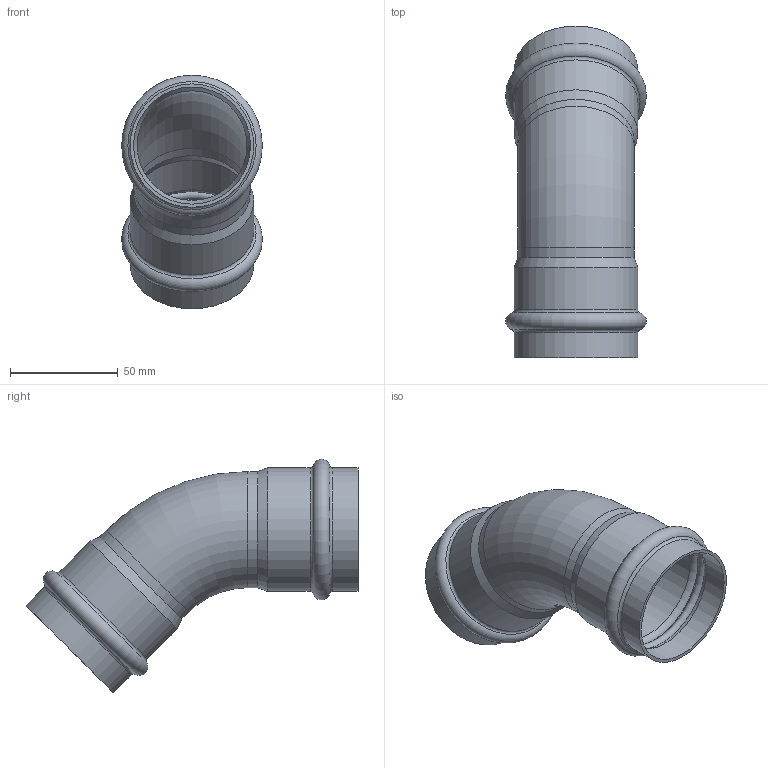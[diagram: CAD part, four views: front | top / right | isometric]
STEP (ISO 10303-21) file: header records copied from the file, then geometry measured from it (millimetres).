
FILE_DESCRIPTION(('STEP AP203'), '1');
FILE_NAME('VTi.959.I.005454', '', ('UNSPECIFIED'), ('UNSPECIFIED'), 'C3D Converter', 'C3D Toolkit', '');
FILE_SCHEMA(('CONFIG_CONTROL_DESIGN'));
Length unit declared in the file: millimetre
Products named in the file (1): ВР.302661.023.000 СБ
Bounding box: 65.38 x 154.3 x 108.49 mm (x, y, z)
Volume: 46417.8 mm3; surface area: 58069.8 mm2
Topology: 1 solids, 1 shells, 34 faces, 74 edges, 42 vertices
Faces by surface type: torus 16, cylinder 12, cone 4, plane 2
Full cylindrical faces by diameter (mm): 51 x2, 54 x2, 54.4 x4, 57.4 x4
Entity records: 808 total; most frequent: DIRECTION 154, CARTESIAN_POINT 119, ORIENTED_EDGE 84, AXIS2_PLACEMENT_3D 77, EDGE_LOOP 68, FACE_OUTER_BOUND 48, EDGE_CURVE 42, VERTEX_POINT 42
